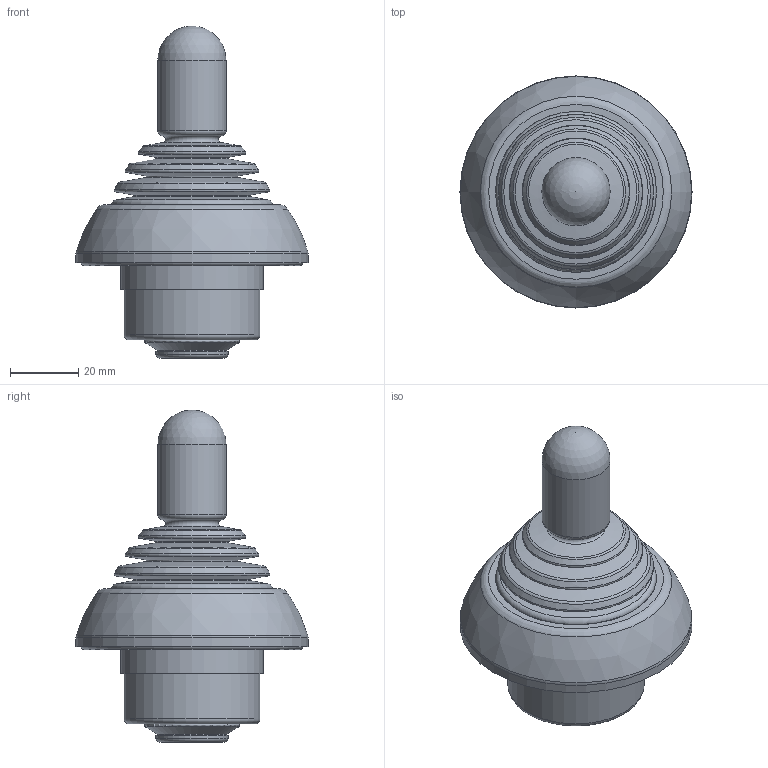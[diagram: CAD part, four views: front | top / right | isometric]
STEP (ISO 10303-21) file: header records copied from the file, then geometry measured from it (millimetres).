
FILE_DESCRIPTION(/* description */ (''),/* implementation_level */ '2;1');
FILE_NAME(/* name */ 'C:\Users\mk\Desktop\60-01342.stp',/* time_stamp */ '2023-01-16T10:39:38+01:00',/* author */ ('mk'),/* organization */ (''),/* preprocessor_version */ 'ST-DEVELOPER v18.1',/* originating_system */ 'Autodesk Inventor 2021',/* authorisation */ '');
FILE_SCHEMA (('AUTOMOTIVE_DESIGN { 1 0 10303 214 3 1 1 }'));
Length unit declared in the file: millimetre
Products named in the file (1): 60-01342_Shrinkwrap_1
Bounding box: 68 x 68 x 97.3 mm (x, y, z)
Volume: 110405.1 mm3; surface area: 27430.6 mm2
Topology: 1 solids, 1 shells, 295 faces, 715 edges, 459 vertices
Faces by surface type: cylinder 128, plane 107, torus 33, cone 20, bspline 4, sphere 3
Full cylindrical faces by diameter (mm): 2.459 x4, 3 x4, 3.2 x8, 4.2 x2, 5 x2, 10.9 x1, 20 x1, 20.2 x1, 40 x1, 41.75 x1, 47 x1, 47.2 x1, 59.5 x1, 60 x1, 61.5 x1, 65.5 x1, 68 x1
Entity records: 9193 total; most frequent: DIRECTION 1693, CARTESIAN_POINT 1567, ORIENTED_EDGE 1416, EDGE_CURVE 708, AXIS2_PLACEMENT_3D 693, VERTEX_POINT 459, CIRCLE 401, EDGE_LOOP 340
